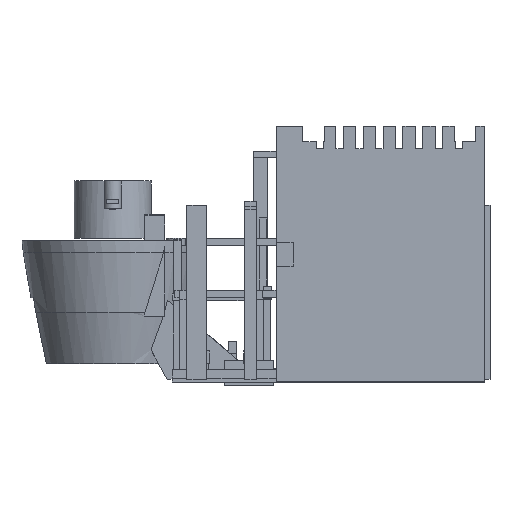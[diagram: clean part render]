
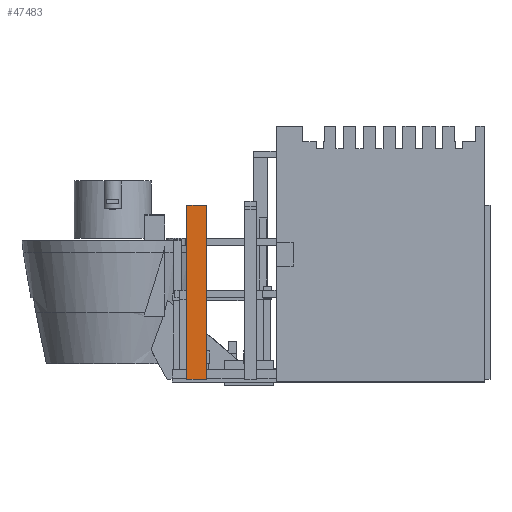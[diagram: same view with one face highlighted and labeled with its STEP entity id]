
A CAD part, front view. The second image highlights one B-rep face of the part: STEP entity #47483.
In plain terms, the highlighted planar face has unit normal (0, -1, 0).
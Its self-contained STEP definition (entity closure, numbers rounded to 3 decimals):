
#12809 = PLANE('',#12810);
#12810 = AXIS2_PLACEMENT_3D('',#12811,#12812,#12813);
#12811 = CARTESIAN_POINT('',(-100.1,-100.5,41.));
#12812 = DIRECTION('',(1.,0.,0.));
#12813 = DIRECTION('',(0.,0.,1.));
#12835 = PLANE('',#12836);
#12836 = AXIS2_PLACEMENT_3D('',#12837,#12838,#12839);
#12837 = CARTESIAN_POINT('',(-100.1,-100.5,41.));
#12838 = DIRECTION('',(0.,0.,1.));
#12839 = DIRECTION('',(1.,0.,0.));
#12861 = PLANE('',#12862);
#12862 = AXIS2_PLACEMENT_3D('',#12863,#12864,#12865);
#12863 = CARTESIAN_POINT('',(-92.1,-100.5,41.));
#12864 = DIRECTION('',(1.,0.,0.));
#12865 = DIRECTION('',(0.,0.,1.));
#27782 = VERTEX_POINT('',#27783);
#27783 = CARTESIAN_POINT('',(-92.1,-100.5,111.3));
#27799 = PLANE('',#27800);
#27800 = AXIS2_PLACEMENT_3D('',#27801,#27802,#27803);
#27801 = CARTESIAN_POINT('',(-100.1,-100.5,111.3));
#27802 = DIRECTION('',(0.,0.,1.));
#27803 = DIRECTION('',(1.,0.,0.));
#27811 = EDGE_CURVE('',#27812,#27782,#27814,.T.);
#27812 = VERTEX_POINT('',#27813);
#27813 = CARTESIAN_POINT('',(-92.1,-100.5,41.));
#27814 = SURFACE_CURVE('',#27815,(#27819,#27826),.PCURVE_S1.);
#27815 = LINE('',#27816,#27817);
#27816 = CARTESIAN_POINT('',(-92.1,-100.5,41.));
#27817 = VECTOR('',#27818,1.);
#27818 = DIRECTION('',(0.,0.,1.));
#27819 = PCURVE('',#12861,#27820);
#27820 = DEFINITIONAL_REPRESENTATION('',(#27821),#27825);
#27821 = LINE('',#27822,#27823);
#27822 = CARTESIAN_POINT('',(0.,0.));
#27823 = VECTOR('',#27824,1.);
#27824 = DIRECTION('',(1.,0.));
#27825 = ( GEOMETRIC_REPRESENTATION_CONTEXT(2) 
PARAMETRIC_REPRESENTATION_CONTEXT() REPRESENTATION_CONTEXT('2D SPACE',''
  ) );
#27826 = PCURVE('',#27827,#27832);
#27827 = PLANE('',#27828);
#27828 = AXIS2_PLACEMENT_3D('',#27829,#27830,#27831);
#27829 = CARTESIAN_POINT('',(-100.1,-100.5,41.));
#27830 = DIRECTION('',(0.,1.,0.));
#27831 = DIRECTION('',(0.,0.,1.));
#27832 = DEFINITIONAL_REPRESENTATION('',(#27833),#27837);
#27833 = LINE('',#27834,#27835);
#27834 = CARTESIAN_POINT('',(0.,8.));
#27835 = VECTOR('',#27836,1.);
#27836 = DIRECTION('',(1.,0.));
#27837 = ( GEOMETRIC_REPRESENTATION_CONTEXT(2) 
PARAMETRIC_REPRESENTATION_CONTEXT() REPRESENTATION_CONTEXT('2D SPACE',''
  ) );
#27887 = VERTEX_POINT('',#27888);
#27888 = CARTESIAN_POINT('',(-100.1,-100.5,41.));
#27909 = EDGE_CURVE('',#27887,#27812,#27910,.T.);
#27910 = SURFACE_CURVE('',#27911,(#27915,#27922),.PCURVE_S1.);
#27911 = LINE('',#27912,#27913);
#27912 = CARTESIAN_POINT('',(-100.1,-100.5,41.));
#27913 = VECTOR('',#27914,1.);
#27914 = DIRECTION('',(1.,0.,0.));
#27915 = PCURVE('',#12835,#27916);
#27916 = DEFINITIONAL_REPRESENTATION('',(#27917),#27921);
#27917 = LINE('',#27918,#27919);
#27918 = CARTESIAN_POINT('',(0.,0.));
#27919 = VECTOR('',#27920,1.);
#27920 = DIRECTION('',(1.,0.));
#27921 = ( GEOMETRIC_REPRESENTATION_CONTEXT(2) 
PARAMETRIC_REPRESENTATION_CONTEXT() REPRESENTATION_CONTEXT('2D SPACE',''
  ) );
#27922 = PCURVE('',#27827,#27923);
#27923 = DEFINITIONAL_REPRESENTATION('',(#27924),#27928);
#27924 = LINE('',#27925,#27926);
#27925 = CARTESIAN_POINT('',(0.,0.));
#27926 = VECTOR('',#27927,1.);
#27927 = DIRECTION('',(0.,1.));
#27928 = ( GEOMETRIC_REPRESENTATION_CONTEXT(2) 
PARAMETRIC_REPRESENTATION_CONTEXT() REPRESENTATION_CONTEXT('2D SPACE',''
  ) );
#27936 = VERTEX_POINT('',#27937);
#27937 = CARTESIAN_POINT('',(-100.1,-100.5,111.3));
#27960 = EDGE_CURVE('',#27887,#27936,#27961,.T.);
#27961 = SURFACE_CURVE('',#27962,(#27966,#27973),.PCURVE_S1.);
#27962 = LINE('',#27963,#27964);
#27963 = CARTESIAN_POINT('',(-100.1,-100.5,41.));
#27964 = VECTOR('',#27965,1.);
#27965 = DIRECTION('',(0.,0.,1.));
#27966 = PCURVE('',#12809,#27967);
#27967 = DEFINITIONAL_REPRESENTATION('',(#27968),#27972);
#27968 = LINE('',#27969,#27970);
#27969 = CARTESIAN_POINT('',(0.,0.));
#27970 = VECTOR('',#27971,1.);
#27971 = DIRECTION('',(1.,0.));
#27972 = ( GEOMETRIC_REPRESENTATION_CONTEXT(2) 
PARAMETRIC_REPRESENTATION_CONTEXT() REPRESENTATION_CONTEXT('2D SPACE',''
  ) );
#27973 = PCURVE('',#27827,#27974);
#27974 = DEFINITIONAL_REPRESENTATION('',(#27975),#27979);
#27975 = LINE('',#27976,#27977);
#27976 = CARTESIAN_POINT('',(0.,0.));
#27977 = VECTOR('',#27978,1.);
#27978 = DIRECTION('',(1.,0.));
#27979 = ( GEOMETRIC_REPRESENTATION_CONTEXT(2) 
PARAMETRIC_REPRESENTATION_CONTEXT() REPRESENTATION_CONTEXT('2D SPACE',''
  ) );
#47355 = EDGE_CURVE('',#27936,#27782,#47356,.T.);
#47356 = SURFACE_CURVE('',#47357,(#47361,#47368),.PCURVE_S1.);
#47357 = LINE('',#47358,#47359);
#47358 = CARTESIAN_POINT('',(-100.1,-100.5,111.3));
#47359 = VECTOR('',#47360,1.);
#47360 = DIRECTION('',(1.,0.,0.));
#47361 = PCURVE('',#27799,#47362);
#47362 = DEFINITIONAL_REPRESENTATION('',(#47363),#47367);
#47363 = LINE('',#47364,#47365);
#47364 = CARTESIAN_POINT('',(0.,0.));
#47365 = VECTOR('',#47366,1.);
#47366 = DIRECTION('',(1.,0.));
#47367 = ( GEOMETRIC_REPRESENTATION_CONTEXT(2) 
PARAMETRIC_REPRESENTATION_CONTEXT() REPRESENTATION_CONTEXT('2D SPACE',''
  ) );
#47368 = PCURVE('',#27827,#47369);
#47369 = DEFINITIONAL_REPRESENTATION('',(#47370),#47374);
#47370 = LINE('',#47371,#47372);
#47371 = CARTESIAN_POINT('',(70.3,0.));
#47372 = VECTOR('',#47373,1.);
#47373 = DIRECTION('',(0.,1.));
#47374 = ( GEOMETRIC_REPRESENTATION_CONTEXT(2) 
PARAMETRIC_REPRESENTATION_CONTEXT() REPRESENTATION_CONTEXT('2D SPACE',''
  ) );
#47483 = ADVANCED_FACE('',(#47484),#27827,.F.);
#47484 = FACE_BOUND('',#47485,.F.);
#47485 = EDGE_LOOP('',(#47486,#47487,#47488,#47489));
#47486 = ORIENTED_EDGE('',*,*,#27909,.F.);
#47487 = ORIENTED_EDGE('',*,*,#27960,.T.);
#47488 = ORIENTED_EDGE('',*,*,#47355,.T.);
#47489 = ORIENTED_EDGE('',*,*,#27811,.F.);
